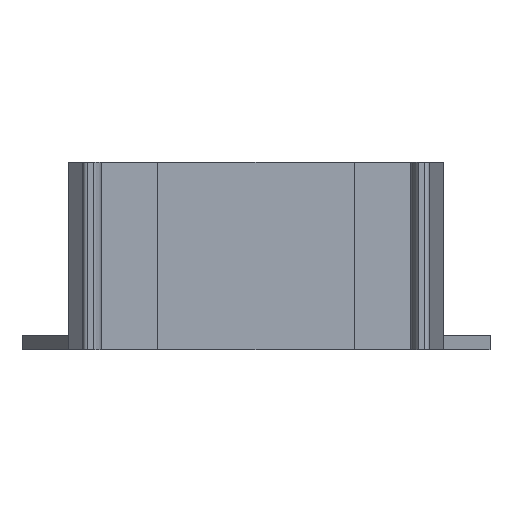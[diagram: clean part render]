
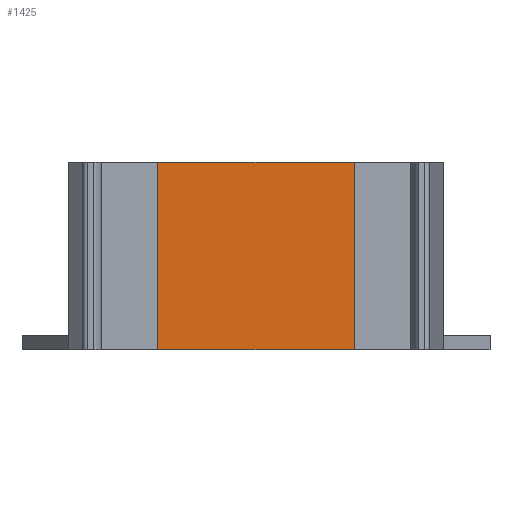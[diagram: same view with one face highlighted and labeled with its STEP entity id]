
A CAD part, front view. The second image highlights one B-rep face of the part: STEP entity #1425.
In plain terms, the highlighted planar face has unit normal (0, -1, 0).
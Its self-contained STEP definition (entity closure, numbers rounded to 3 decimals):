
#46=PLANE('',#1549);
#111=FACE_OUTER_BOUND('',#189,.T.);
#189=EDGE_LOOP('',(#1158,#1159,#1160,#1161));
#257=LINE('',#2068,#429);
#334=LINE('',#2257,#506);
#335=LINE('',#2260,#507);
#336=LINE('',#2261,#508);
#429=VECTOR('',#1664,10.);
#506=VECTOR('',#1825,10.);
#507=VECTOR('',#1828,10.);
#508=VECTOR('',#1829,10.);
#639=VERTEX_POINT('',#2065);
#640=VERTEX_POINT('',#2067);
#710=VERTEX_POINT('',#2255);
#711=VERTEX_POINT('',#2259);
#784=EDGE_CURVE('',#639,#640,#257,.T.);
#879=EDGE_CURVE('',#710,#640,#334,.T.);
#880=EDGE_CURVE('',#711,#710,#335,.T.);
#881=EDGE_CURVE('',#711,#639,#336,.T.);
#1158=ORIENTED_EDGE('',*,*,#880,.T.);
#1159=ORIENTED_EDGE('',*,*,#879,.T.);
#1160=ORIENTED_EDGE('',*,*,#784,.F.);
#1161=ORIENTED_EDGE('',*,*,#881,.F.);
#1425=ADVANCED_FACE('',(#111),#46,.T.);
#1549=AXIS2_PLACEMENT_3D('',#2258,#1826,#1827);
#1664=DIRECTION('',(1.,0.,0.));
#1825=DIRECTION('',(0.,0.,1.));
#1826=DIRECTION('center_axis',(0.,-1.,0.));
#1827=DIRECTION('ref_axis',(1.,0.,0.));
#1828=DIRECTION('',(1.,0.,0.));
#1829=DIRECTION('',(0.,0.,1.));
#2065=CARTESIAN_POINT('',(-12.75,-17.582,20.));
#2067=CARTESIAN_POINT('',(12.75,-17.582,20.));
#2068=CARTESIAN_POINT('',(-12.75,-17.582,20.));
#2255=CARTESIAN_POINT('',(12.75,-17.582,0.));
#2257=CARTESIAN_POINT('',(12.75,-17.582,0.));
#2258=CARTESIAN_POINT('Origin',(-12.75,-17.582,0.));
#2259=CARTESIAN_POINT('',(-12.75,-17.582,0.));
#2260=CARTESIAN_POINT('',(-12.75,-17.582,0.));
#2261=CARTESIAN_POINT('',(-12.75,-17.582,0.));
